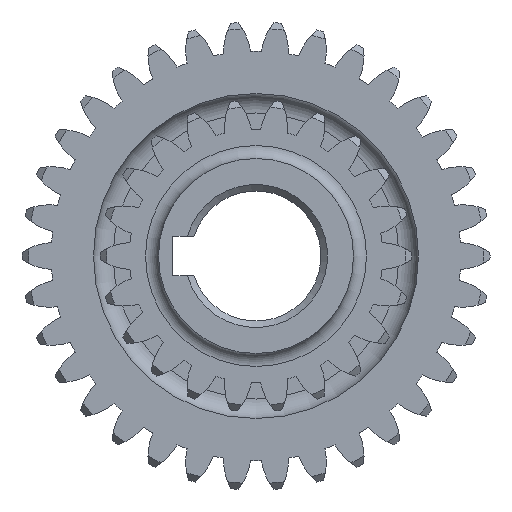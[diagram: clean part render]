
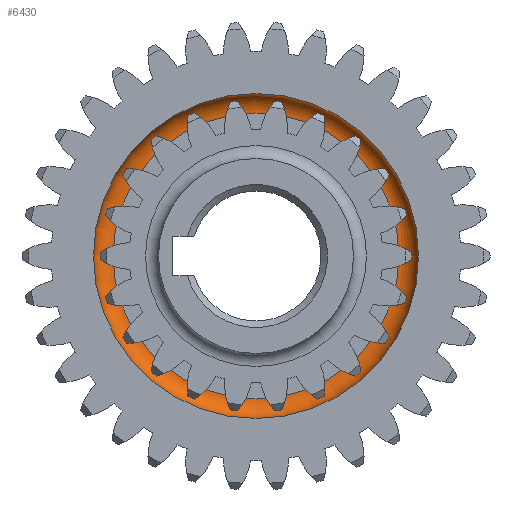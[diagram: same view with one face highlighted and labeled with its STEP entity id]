
A CAD part, left-side view. The second image highlights one B-rep face of the part: STEP entity #6430.
In plain terms, the highlighted toroidal (fillet/blend) face has major radius 22 mm and minor radius 3 mm.
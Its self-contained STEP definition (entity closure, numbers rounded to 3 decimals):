
#15=TOROIDAL_SURFACE('',#7137,22.,3.);
#475=FACE_BOUND('',#1543,.T.);
#1181=FACE_OUTER_BOUND('',#1542,.T.);
#1542=EDGE_LOOP('',(#5014));
#1543=EDGE_LOOP('',(#5015));
#2050=CIRCLE('',#7138,22.);
#2051=CIRCLE('',#7139,25.);
#2708=VERTEX_POINT('',#11310);
#2709=VERTEX_POINT('',#11312);
#3616=EDGE_CURVE('',#2708,#2708,#2050,.T.);
#3617=EDGE_CURVE('',#2709,#2709,#2051,.T.);
#5014=ORIENTED_EDGE('',*,*,#3616,.T.);
#5015=ORIENTED_EDGE('',*,*,#3617,.F.);
#6430=ADVANCED_FACE('',(#1181,#475),#15,.F.);
#7137=AXIS2_PLACEMENT_3D('',#11309,#8780,#8781);
#7138=AXIS2_PLACEMENT_3D('',#11311,#8782,#8783);
#7139=AXIS2_PLACEMENT_3D('',#11313,#8784,#8785);
#8780=DIRECTION('center_axis',(1.,0.,0.));
#8781=DIRECTION('ref_axis',(0.,0.,-1.));
#8782=DIRECTION('center_axis',(1.,0.,0.));
#8783=DIRECTION('ref_axis',(0.,-1.,0.));
#8784=DIRECTION('center_axis',(1.,0.,0.));
#8785=DIRECTION('ref_axis',(0.,0.,-1.));
#11309=CARTESIAN_POINT('Origin',(4.5,0.,0.));
#11310=CARTESIAN_POINT('',(7.5,22.,0.));
#11311=CARTESIAN_POINT('Origin',(7.5,0.,0.));
#11312=CARTESIAN_POINT('',(4.5,25.,0.));
#11313=CARTESIAN_POINT('Origin',(4.5,0.,0.));
